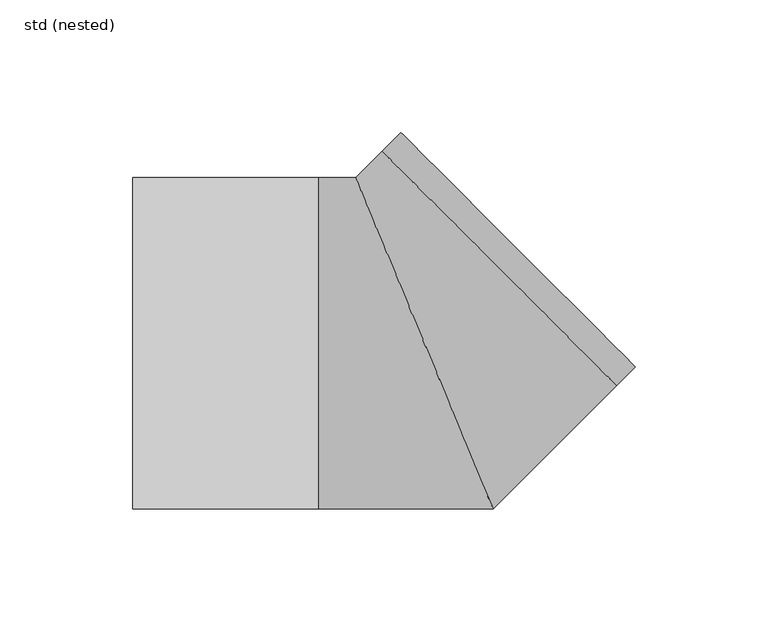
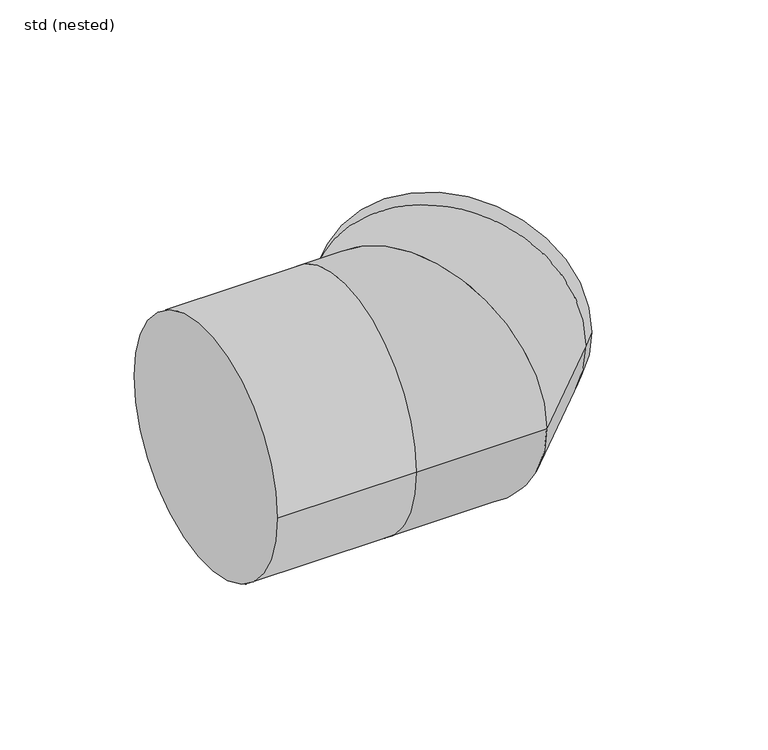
"""IFC4 building model written with IfcOpenShell, lengths in millimetres: pipe fitting geometry, ZZZ_do not use_PIF_ST_UN_ACO pipe bend_ACO : std (nested)."""

from ifc_helpers import new_model, si_unit, frame, origin, place, context, project, spatial, circle_curve, ellipse_curve, source, transform, mapped, element, save
from ifc_brep_helpers import plane_surface, cylinder_surface, advanced_brep


def std_nested_cbfc2923(model_context):
    return source(origin(), model_context, "Body", "AdvancedBrep", [
        advanced_brep(
        [(-110.0, -62.5, 0.0), (-110.0, 62.5, 0.0), (-40.0, 62.5, 0.0), (-40.0, -62.5, 0.0), (79.5489298, -8.8440809, 0.0), (-8.8335886, 79.5500956, 0.0), (-15.9051227, 72.4794942, 0.0), (72.4773957, -15.9146824, 0.0), (25.8859332, -62.5, 0.0), (-25.8859332, 62.5, 0.0)],
        [
            (0, 1, circle_curve(frame((-110.0, 0.0, 0.0), z_axis=(-1.0, 0.0, 0.0), x_axis=(0.0, 1.0, 0.0)), 62.5)),
            (1, 0, circle_curve(frame((-110.0, 0.0, 0.0), z_axis=(-1.0, 0.0, 0.0), x_axis=(0.0, 1.0, 0.0)), 62.5)),
            (1, 2),
            (2, 3, circle_curve(frame((-40.0, 0.0, 0.0), z_axis=(-1.0, 0.0, 0.0), x_axis=(0.0, 1.0, 0.0)), 62.5)),
            (3, 0),
            (3, 2, circle_curve(frame((-40.0, 0.0, 0.0), z_axis=(-1.0, 0.0, 0.0), x_axis=(0.0, 1.0, 0.0)), 62.5)),
            (4, 5, circle_curve(frame((35.3576706, 35.3530073, 0.0), z_axis=(0.7071534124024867, 0.7070601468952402, 0.0), x_axis=(-0.7070601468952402, 0.7071534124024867, 0.0)), 62.5)),
            (5, 4, circle_curve(frame((35.3576706, 35.3530073, 0.0), z_axis=(0.7071534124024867, 0.7070601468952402, 0.0), x_axis=(-0.7070601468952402, 0.7071534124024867, 0.0)), 62.5)),
            (5, 6),
            (6, 7, circle_curve(frame((28.2861365, 28.2824059, 0.0), z_axis=(0.7071534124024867, 0.7070601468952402, 0.0), x_axis=(-0.7070601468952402, 0.7071534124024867, 0.0)), 62.5)),
            (7, 4),
            (7, 6, circle_curve(frame((28.2861365, 28.2824059, 0.0), z_axis=(0.7071534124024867, 0.7070601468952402, 0.0), x_axis=(-0.7070601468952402, 0.7071534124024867, 0.0)), 62.5)),
            (3, 8),
            (8, 9, ellipse_curve(frame((0.0, 0.0, 0.0), z_axis=(-0.9238921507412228, -0.3826529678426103, 0.0), x_axis=(-0.3826529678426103, 0.9238921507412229, 0.0)), 67.6485886, 62.5)),
            (9, 2),
            (9, 8, ellipse_curve(frame((0.0, 0.0, 0.0), z_axis=(-0.9238921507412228, -0.3826529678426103, 0.0), x_axis=(-0.3826529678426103, 0.9238921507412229, 0.0)), 67.6485886, 62.5)),
            (8, 7),
            (6, 9),
        ],
        [
            plane_surface(frame((-110.0, 62.5, 0.0), z_axis=(-1.0, 0.0, 0.0), x_axis=(0.0, 0.0, -1.0))),
            cylinder_surface(frame((-110.0, 0.0, 0.0), z_axis=(1.0, 0.0, 0.0), x_axis=(0.0, 1.0, 0.0)), 62.5),
            plane_surface(frame((35.3576706, 35.3530073, 0.0), z_axis=(0.7071534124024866, 0.7070601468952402, 0.0), x_axis=(0.0, 0.0, 1.0))),
            cylinder_surface(frame((28.2861365, 28.2824059, 0.0), z_axis=(-0.7071534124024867, -0.7070601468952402, 0.0), x_axis=(-0.7070601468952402, 0.7071534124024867, 0.0)), 62.5),
            cylinder_surface(frame((-40.0, 0.0, 0.0), z_axis=(-1.0, 0.0, 0.0), x_axis=(0.0, 1.0, 0.0)), 62.5),
            cylinder_surface(frame((0.0, 0.0, 0.0), z_axis=(-0.7071534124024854, -0.7070601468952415, 0.0), x_axis=(-0.7070601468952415, 0.7071534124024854, 0.0)), 62.5),
        ],
        [
            (0, [[1, 2]]),
            (1, [[-2, 3, 4, 5]]),
            (1, [[-1, -5, 6, -3]]),
            (2, [[7, 8]]),
            (3, [[-8, 9, 10, 11]]),
            (3, [[-7, -11, 12, -9]]),
            (4, [[13, 14, 15, -6]]),
            (4, [[-13, -4, -15, 16]]),
            (5, [[-14, 17, -10, 18]]),
            (5, [[-16, -18, -12, -17]]),
        ],
    ),
    ])


if __name__ == "__main__":
    model = new_model("IFC4")
    model_context = context("Model", 3, world=origin())
    ifc_project = project(units=[si_unit("LENGTHUNIT", "METRE", prefix="MILLI")], contexts=[model_context])
    site = spatial("IfcSite", under=ifc_project)
    building = spatial("IfcBuilding", under=site)
    placement = place(None, origin())
    std_nested_shape = std_nested_cbfc2923(model_context)
    element("IfcPipeFitting", 1, ObjectType="ZZZ_do not use_PIF_ST_UN_ACO pipe bend_ACO : std (nested)", at=placement, inside=building, context=model_context, shape_type="MappedRepresentation", body=[
        mapped(std_nested_shape, transform((0.0, 0.0, 0.0), x_axis=(1.0, 0.0, 0.0), y_axis=(0.0, 1.0, 0.0), z_axis=(0.0, 0.0, 1.0))),
    ])
    save(model, "model.ifc")
